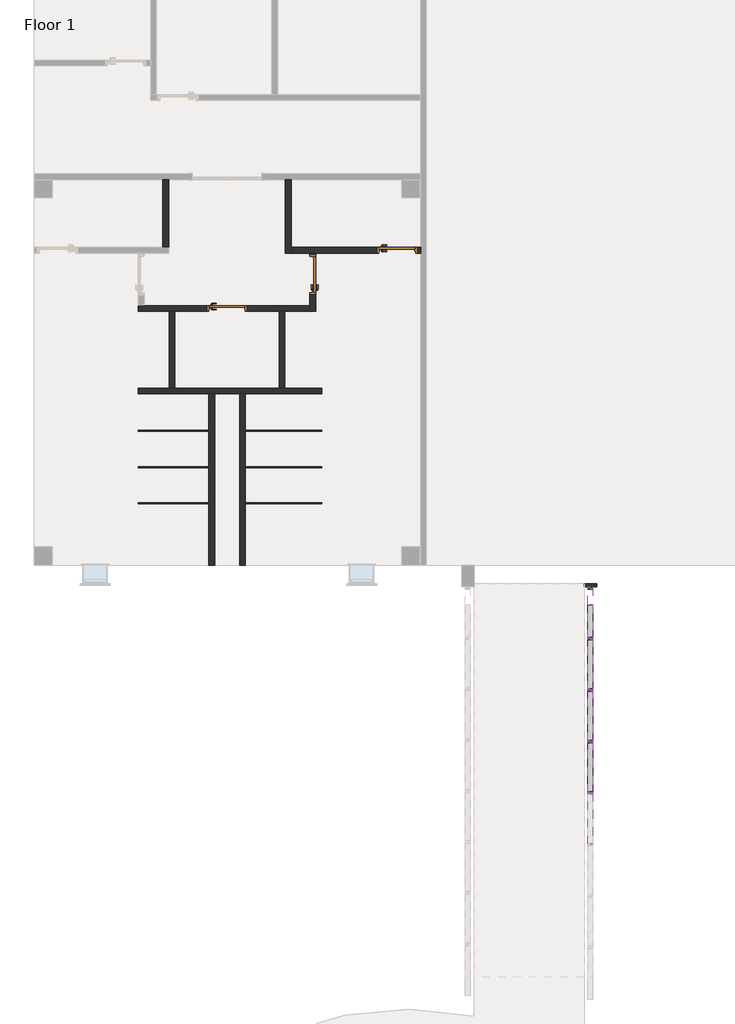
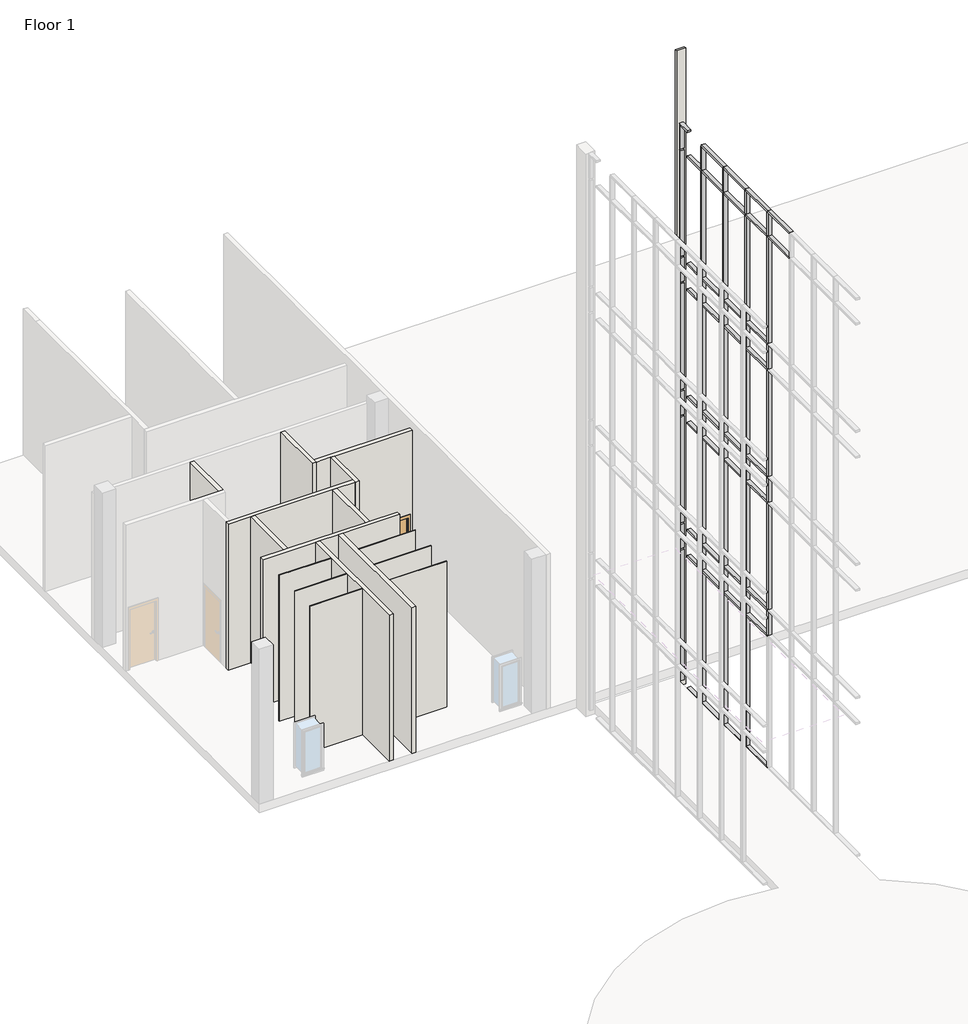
# One storey, part 9 of 11: 77 members, 17 walls, 3 doors.
"""IFC4 building model written with IfcOpenShell, lengths in millimetres."""

from ifc_helpers import new_model, si_unit, origin, origin_with_axes, place, context, project, spatial, polyline, outline, extrude, faceted_brep, transform, mapped, element, save
from components import door_36f17018, door_a46f4f49, member_15823cb3, member_5d07894b, member_3ba9e939, member_ad567e07, member_7db1855a, member_98b79ab6, member_74aba05d, member_5783932f, member_e9605c56, member_5c8c9790, member_bbf28ac8, member_d2e7e466, member_c17f1be2

model = new_model("IFC4")

# Units and contexts
model_context = context("Model", 3, world=origin())
ifc_project = project(units=[si_unit("LENGTHUNIT", "METRE", prefix="MILLI")], contexts=[model_context])

# Site, building, storey
site = spatial("IfcSite", under=ifc_project)
building = spatial("IfcBuilding", under=site)
storey = spatial("IfcBuildingStorey", under=building, Name="Floor 1", Elevation=0.0)

# Doors
placement = place(None, origin())
door_shape = door_36f17018(model_context)
element("IfcDoor", 1, ObjectType="Door-Passage-Single-Flush : 36\" x 84\"", at=placement, inside=storey, context=model_context, shape_type="MappedRepresentation", body=[
    mapped(door_shape, transform((3964.0192024, 45858.911889, 0.0), x_axis=(0.0, 1.0, 0.0), y_axis=(-1.0, 0.0, 0.0), z_axis=(0.0, 0.0, 1.0))),
])
door_2_shape = door_a46f4f49(model_context)
element("IfcDoor", 2, ObjectType="Door-Passage-Single-Flush : 36\" x 84\"", at=placement, inside=storey, context=model_context, shape_type="MappedRepresentation", body=[
    mapped(door_2_shape, transform((6072.2192024, 46455.811889, 0.0), x_axis=(1.0, 0.0, 0.0), y_axis=(0.0, 1.0, 0.0), z_axis=(0.0, 0.0, 1.0))),
])
element("IfcDoor", 3, ObjectType="Door-Passage-Single-Flush : 36\" x 84\"", at=placement, inside=storey, context=model_context, shape_type="MappedRepresentation", body=[
    mapped(door_2_shape, transform((1836.7692024, 45008.011889, 0.0), x_axis=(1.0, 0.0, 0.0), y_axis=(0.0, 1.0, 0.0), z_axis=(0.0, 0.0, 1.0))),
])

# Members
member_shape = member_15823cb3(model_context)
element("IfcMember", 4, ObjectType="Rectangular Mullion1 : 2.5\" x 5\" rectangular", at=placement, inside=storey, context=model_context, shape_type="MappedRepresentation", body=[
    mapped(member_shape, transform((10878.8276119, 38086.511889, 19659.6), x_axis=(0.0, 0.0, 1.0), y_axis=(1.0, 0.0, 0.0), z_axis=(0.0, 1.0, 0.0))),
])
member_2_shape = member_5d07894b(model_context)
element("IfcMember", 5, ObjectType="Rectangular Mullion1 : 2.5\" x 5\" rectangular", at=placement, inside=storey, context=model_context, shape_type="MappedRepresentation", body=[
    mapped(member_2_shape, transform((10878.8276119, 35521.111889, -88.9), x_axis=(0.0, 1.0, 0.0), y_axis=(1.0, 0.0, 0.0), z_axis=(0.0, 0.0, -1.0))),
])
element("IfcMember", 6, ObjectType="Rectangular Mullion1 : 2.5\" x 5\" rectangular", at=placement, inside=storey, context=model_context, shape_type="MappedRepresentation", body=[
    mapped(member_2_shape, transform((10878.8276119, 34238.411889, -88.9), x_axis=(0.0, 1.0, 0.0), y_axis=(1.0, 0.0, 0.0), z_axis=(0.0, 0.0, -1.0))),
])
element("IfcMember", 7, ObjectType="Rectangular Mullion1 : 2.5\" x 5\" rectangular", at=placement, inside=storey, context=model_context, shape_type="MappedRepresentation", body=[
    mapped(member_2_shape, transform((10878.8276119, 36803.811889, -88.9), x_axis=(0.0, 1.0, 0.0), y_axis=(1.0, 0.0, 0.0), z_axis=(0.0, 0.0, -1.0))),
])
member_3_shape = member_3ba9e939(model_context)
element("IfcMember", 8, ObjectType="Rectangular Mullion1 : 2.5\" x 5\" rectangular", at=placement, inside=storey, context=model_context, shape_type="MappedRepresentation", body=[
    mapped(member_3_shape, transform((10878.8276119, 32955.711889, 14966.95), x_axis=(0.0, 1.0, 0.0), y_axis=(1.0, 0.0, 0.0), z_axis=(0.0, 0.0, -1.0))),
])
element("IfcMember", 9, ObjectType="Rectangular Mullion1 : 2.5\" x 5\" rectangular", at=placement, inside=storey, context=model_context, shape_type="MappedRepresentation", body=[
    mapped(member_3_shape, transform((10878.8276119, 32955.711889, 10242.55), x_axis=(0.0, 1.0, 0.0), y_axis=(1.0, 0.0, 0.0), z_axis=(0.0, 0.0, -1.0))),
])
element("IfcMember", 10, ObjectType="Rectangular Mullion1 : 2.5\" x 5\" rectangular", at=placement, inside=storey, context=model_context, shape_type="MappedRepresentation", body=[
    mapped(member_3_shape, transform((10878.8276119, 32955.711889, 5518.15), x_axis=(0.0, 1.0, 0.0), y_axis=(1.0, 0.0, 0.0), z_axis=(0.0, 0.0, -1.0))),
])
element("IfcMember", 11, ObjectType="Rectangular Mullion1 : 2.5\" x 5\" rectangular", at=placement, inside=storey, context=model_context, shape_type="MappedRepresentation", body=[
    mapped(member_3_shape, transform((10878.8276119, 35521.111889, 14966.95), x_axis=(0.0, 1.0, 0.0), y_axis=(1.0, 0.0, 0.0), z_axis=(0.0, 0.0, -1.0))),
])
element("IfcMember", 12, ObjectType="Rectangular Mullion1 : 2.5\" x 5\" rectangular", at=placement, inside=storey, context=model_context, shape_type="MappedRepresentation", body=[
    mapped(member_3_shape, transform((10878.8276119, 35521.111889, 10242.55), x_axis=(0.0, 1.0, 0.0), y_axis=(1.0, 0.0, 0.0), z_axis=(0.0, 0.0, -1.0))),
])
element("IfcMember", 13, ObjectType="Rectangular Mullion1 : 2.5\" x 5\" rectangular", at=placement, inside=storey, context=model_context, shape_type="MappedRepresentation", body=[
    mapped(member_3_shape, transform((10878.8276119, 35521.111889, 5518.15), x_axis=(0.0, 1.0, 0.0), y_axis=(1.0, 0.0, 0.0), z_axis=(0.0, 0.0, -1.0))),
])
element("IfcMember", 14, ObjectType="Rectangular Mullion1 : 2.5\" x 5\" rectangular", at=placement, inside=storey, context=model_context, shape_type="MappedRepresentation", body=[
    mapped(member_3_shape, transform((10878.8276119, 34238.411889, 14966.95), x_axis=(0.0, 1.0, 0.0), y_axis=(1.0, 0.0, 0.0), z_axis=(0.0, 0.0, -1.0))),
])
element("IfcMember", 15, ObjectType="Rectangular Mullion1 : 2.5\" x 5\" rectangular", at=placement, inside=storey, context=model_context, shape_type="MappedRepresentation", body=[
    mapped(member_3_shape, transform((10878.8276119, 34238.411889, 10242.55), x_axis=(0.0, 1.0, 0.0), y_axis=(1.0, 0.0, 0.0), z_axis=(0.0, 0.0, -1.0))),
])
element("IfcMember", 16, ObjectType="Rectangular Mullion1 : 2.5\" x 5\" rectangular", at=placement, inside=storey, context=model_context, shape_type="MappedRepresentation", body=[
    mapped(member_3_shape, transform((10878.8276119, 34238.411889, 5518.15), x_axis=(0.0, 1.0, 0.0), y_axis=(1.0, 0.0, 0.0), z_axis=(0.0, 0.0, -1.0))),
])
element("IfcMember", 17, ObjectType="Rectangular Mullion1 : 2.5\" x 5\" rectangular", at=placement, inside=storey, context=model_context, shape_type="MappedRepresentation", body=[
    mapped(member_3_shape, transform((10878.8276119, 36803.811889, 14966.95), x_axis=(0.0, 1.0, 0.0), y_axis=(1.0, 0.0, 0.0), z_axis=(0.0, 0.0, -1.0))),
])
element("IfcMember", 18, ObjectType="Rectangular Mullion1 : 2.5\" x 5\" rectangular", at=placement, inside=storey, context=model_context, shape_type="MappedRepresentation", body=[
    mapped(member_3_shape, transform((10878.8276119, 36803.811889, 10242.55), x_axis=(0.0, 1.0, 0.0), y_axis=(1.0, 0.0, 0.0), z_axis=(0.0, 0.0, -1.0))),
])
element("IfcMember", 19, ObjectType="Rectangular Mullion1 : 2.5\" x 5\" rectangular", at=placement, inside=storey, context=model_context, shape_type="MappedRepresentation", body=[
    mapped(member_3_shape, transform((10878.8276119, 36803.811889, 5518.15), x_axis=(0.0, 1.0, 0.0), y_axis=(1.0, 0.0, 0.0), z_axis=(0.0, 0.0, -1.0))),
])
member_4_shape = member_ad567e07(model_context)
element("IfcMember", 20, ObjectType="Rectangular Mullion1 : 2.5\" x 5\" rectangular", at=placement, inside=storey, context=model_context, shape_type="MappedRepresentation", body=[
    mapped(member_4_shape, transform((10878.8276119, 32955.711889, 18776.95), x_axis=(0.0, 1.0, 0.0), y_axis=(1.0, 0.0, 0.0), z_axis=(0.0, 0.0, -1.0))),
])
element("IfcMember", 21, ObjectType="Rectangular Mullion1 : 2.5\" x 5\" rectangular", at=placement, inside=storey, context=model_context, shape_type="MappedRepresentation", body=[
    mapped(member_4_shape, transform((10878.8276119, 35521.111889, 18776.95), x_axis=(0.0, 1.0, 0.0), y_axis=(1.0, 0.0, 0.0), z_axis=(0.0, 0.0, -1.0))),
])
element("IfcMember", 22, ObjectType="Rectangular Mullion1 : 2.5\" x 5\" rectangular", at=placement, inside=storey, context=model_context, shape_type="MappedRepresentation", body=[
    mapped(member_4_shape, transform((10878.8276119, 34238.411889, 18776.95), x_axis=(0.0, 1.0, 0.0), y_axis=(1.0, 0.0, 0.0), z_axis=(0.0, 0.0, -1.0))),
])
element("IfcMember", 23, ObjectType="Rectangular Mullion1 : 2.5\" x 5\" rectangular", at=placement, inside=storey, context=model_context, shape_type="MappedRepresentation", body=[
    mapped(member_4_shape, transform((10878.8276119, 36803.811889, 18776.95), x_axis=(0.0, 1.0, 0.0), y_axis=(1.0, 0.0, 0.0), z_axis=(0.0, 0.0, -1.0))),
])
member_5_shape = member_7db1855a(model_context)
element("IfcMember", 24, ObjectType="Rectangular Mullion1 : 2.5\" x 5\" rectangular", at=placement, inside=storey, context=model_context, shape_type="MappedRepresentation", body=[
    mapped(member_5_shape, transform((10878.8276119, 32955.711889, 9328.15), x_axis=(0.0, 1.0, 0.0), y_axis=(1.0, 0.0, 0.0), z_axis=(0.0, 0.0, -1.0))),
])
element("IfcMember", 25, ObjectType="Rectangular Mullion1 : 2.5\" x 5\" rectangular", at=placement, inside=storey, context=model_context, shape_type="MappedRepresentation", body=[
    mapped(member_5_shape, transform((10878.8276119, 32955.711889, 4603.75), x_axis=(0.0, 1.0, 0.0), y_axis=(1.0, 0.0, 0.0), z_axis=(0.0, 0.0, -1.0))),
])
element("IfcMember", 26, ObjectType="Rectangular Mullion1 : 2.5\" x 5\" rectangular", at=placement, inside=storey, context=model_context, shape_type="MappedRepresentation", body=[
    mapped(member_5_shape, transform((10878.8276119, 32955.711889, 14052.55), x_axis=(0.0, 1.0, 0.0), y_axis=(1.0, 0.0, 0.0), z_axis=(0.0, 0.0, -1.0))),
])
element("IfcMember", 27, ObjectType="Rectangular Mullion1 : 2.5\" x 5\" rectangular", at=placement, inside=storey, context=model_context, shape_type="MappedRepresentation", body=[
    mapped(member_5_shape, transform((10878.8276119, 35521.111889, 9328.15), x_axis=(0.0, 1.0, 0.0), y_axis=(1.0, 0.0, 0.0), z_axis=(0.0, 0.0, -1.0))),
])
element("IfcMember", 28, ObjectType="Rectangular Mullion1 : 2.5\" x 5\" rectangular", at=placement, inside=storey, context=model_context, shape_type="MappedRepresentation", body=[
    mapped(member_5_shape, transform((10878.8276119, 35521.111889, 4603.75), x_axis=(0.0, 1.0, 0.0), y_axis=(1.0, 0.0, 0.0), z_axis=(0.0, 0.0, -1.0))),
])
element("IfcMember", 29, ObjectType="Rectangular Mullion1 : 2.5\" x 5\" rectangular", at=placement, inside=storey, context=model_context, shape_type="MappedRepresentation", body=[
    mapped(member_5_shape, transform((10878.8276119, 35521.111889, 14052.55), x_axis=(0.0, 1.0, 0.0), y_axis=(1.0, 0.0, 0.0), z_axis=(0.0, 0.0, -1.0))),
])
element("IfcMember", 30, ObjectType="Rectangular Mullion1 : 2.5\" x 5\" rectangular", at=placement, inside=storey, context=model_context, shape_type="MappedRepresentation", body=[
    mapped(member_5_shape, transform((10878.8276119, 34238.411889, 9328.15), x_axis=(0.0, 1.0, 0.0), y_axis=(1.0, 0.0, 0.0), z_axis=(0.0, 0.0, -1.0))),
])
element("IfcMember", 31, ObjectType="Rectangular Mullion1 : 2.5\" x 5\" rectangular", at=placement, inside=storey, context=model_context, shape_type="MappedRepresentation", body=[
    mapped(member_5_shape, transform((10878.8276119, 34238.411889, 4603.75), x_axis=(0.0, 1.0, 0.0), y_axis=(1.0, 0.0, 0.0), z_axis=(0.0, 0.0, -1.0))),
])
element("IfcMember", 32, ObjectType="Rectangular Mullion1 : 2.5\" x 5\" rectangular", at=placement, inside=storey, context=model_context, shape_type="MappedRepresentation", body=[
    mapped(member_5_shape, transform((10878.8276119, 34238.411889, 14052.55), x_axis=(0.0, 1.0, 0.0), y_axis=(1.0, 0.0, 0.0), z_axis=(0.0, 0.0, -1.0))),
])
element("IfcMember", 33, ObjectType="Rectangular Mullion1 : 2.5\" x 5\" rectangular", at=placement, inside=storey, context=model_context, shape_type="MappedRepresentation", body=[
    mapped(member_5_shape, transform((10878.8276119, 36803.811889, 9328.15), x_axis=(0.0, 1.0, 0.0), y_axis=(1.0, 0.0, 0.0), z_axis=(0.0, 0.0, -1.0))),
])
element("IfcMember", 34, ObjectType="Rectangular Mullion1 : 2.5\" x 5\" rectangular", at=placement, inside=storey, context=model_context, shape_type="MappedRepresentation", body=[
    mapped(member_5_shape, transform((10878.8276119, 36803.811889, 4603.75), x_axis=(0.0, 1.0, 0.0), y_axis=(1.0, 0.0, 0.0), z_axis=(0.0, 0.0, -1.0))),
])
element("IfcMember", 35, ObjectType="Rectangular Mullion1 : 2.5\" x 5\" rectangular", at=placement, inside=storey, context=model_context, shape_type="MappedRepresentation", body=[
    mapped(member_5_shape, transform((10878.8276119, 36803.811889, 14052.55), x_axis=(0.0, 1.0, 0.0), y_axis=(1.0, 0.0, 0.0), z_axis=(0.0, 0.0, -1.0))),
])
member_6_shape = member_98b79ab6(model_context)
element("IfcMember", 36, ObjectType="Rectangular Mullion1 : 2.5\" x 5\" rectangular", at=placement, inside=storey, context=model_context, shape_type="MappedRepresentation", body=[
    mapped(member_6_shape, transform((10878.8276119, 34238.411889, 14935.2), x_axis=(0.0, 0.0, 1.0), y_axis=(1.0, 0.0, 0.0), z_axis=(0.0, 1.0, 0.0))),
])
element("IfcMember", 37, ObjectType="Rectangular Mullion1 : 2.5\" x 5\" rectangular", at=placement, inside=storey, context=model_context, shape_type="MappedRepresentation", body=[
    mapped(member_6_shape, transform((10878.8276119, 36803.811889, 14935.2), x_axis=(0.0, 0.0, 1.0), y_axis=(1.0, 0.0, 0.0), z_axis=(0.0, 1.0, 0.0))),
])
element("IfcMember", 38, ObjectType="Rectangular Mullion1 : 2.5\" x 5\" rectangular", at=placement, inside=storey, context=model_context, shape_type="MappedRepresentation", body=[
    mapped(member_6_shape, transform((10878.8276119, 35521.111889, 14935.2), x_axis=(0.0, 0.0, 1.0), y_axis=(1.0, 0.0, 0.0), z_axis=(0.0, 1.0, 0.0))),
])
element("IfcMember", 39, ObjectType="Rectangular Mullion1 : 2.5\" x 5\" rectangular", at=placement, inside=storey, context=model_context, shape_type="MappedRepresentation", body=[
    mapped(member_6_shape, transform((10878.8276119, 34238.411889, 10210.8), x_axis=(0.0, 0.0, 1.0), y_axis=(1.0, 0.0, 0.0), z_axis=(0.0, 1.0, 0.0))),
])
element("IfcMember", 40, ObjectType="Rectangular Mullion1 : 2.5\" x 5\" rectangular", at=placement, inside=storey, context=model_context, shape_type="MappedRepresentation", body=[
    mapped(member_6_shape, transform((10878.8276119, 36803.811889, 10210.8), x_axis=(0.0, 0.0, 1.0), y_axis=(1.0, 0.0, 0.0), z_axis=(0.0, 1.0, 0.0))),
])
element("IfcMember", 41, ObjectType="Rectangular Mullion1 : 2.5\" x 5\" rectangular", at=placement, inside=storey, context=model_context, shape_type="MappedRepresentation", body=[
    mapped(member_6_shape, transform((10878.8276119, 35521.111889, 10210.8), x_axis=(0.0, 0.0, 1.0), y_axis=(1.0, 0.0, 0.0), z_axis=(0.0, 1.0, 0.0))),
])
element("IfcMember", 42, ObjectType="Rectangular Mullion1 : 2.5\" x 5\" rectangular", at=placement, inside=storey, context=model_context, shape_type="MappedRepresentation", body=[
    mapped(member_6_shape, transform((10878.8276119, 34238.411889, 5486.4), x_axis=(0.0, 0.0, 1.0), y_axis=(1.0, 0.0, 0.0), z_axis=(0.0, 1.0, 0.0))),
])
element("IfcMember", 43, ObjectType="Rectangular Mullion1 : 2.5\" x 5\" rectangular", at=placement, inside=storey, context=model_context, shape_type="MappedRepresentation", body=[
    mapped(member_6_shape, transform((10878.8276119, 36803.811889, 5486.4), x_axis=(0.0, 0.0, 1.0), y_axis=(1.0, 0.0, 0.0), z_axis=(0.0, 1.0, 0.0))),
])
element("IfcMember", 44, ObjectType="Rectangular Mullion1 : 2.5\" x 5\" rectangular", at=placement, inside=storey, context=model_context, shape_type="MappedRepresentation", body=[
    mapped(member_6_shape, transform((10878.8276119, 35521.111889, 5486.4), x_axis=(0.0, 0.0, 1.0), y_axis=(1.0, 0.0, 0.0), z_axis=(0.0, 1.0, 0.0))),
])
element("IfcMember", 45, ObjectType="Rectangular Mullion1 : 2.5\" x 5\" rectangular", at=placement, inside=storey, context=model_context, shape_type="MappedRepresentation", body=[
    mapped(member_6_shape, transform((10878.8276119, 34238.411889, 9296.4), x_axis=(0.0, 0.0, 1.0), y_axis=(1.0, 0.0, 0.0), z_axis=(0.0, 1.0, 0.0))),
])
element("IfcMember", 46, ObjectType="Rectangular Mullion1 : 2.5\" x 5\" rectangular", at=placement, inside=storey, context=model_context, shape_type="MappedRepresentation", body=[
    mapped(member_6_shape, transform((10878.8276119, 36803.811889, 9296.4), x_axis=(0.0, 0.0, 1.0), y_axis=(1.0, 0.0, 0.0), z_axis=(0.0, 1.0, 0.0))),
])
element("IfcMember", 47, ObjectType="Rectangular Mullion1 : 2.5\" x 5\" rectangular", at=placement, inside=storey, context=model_context, shape_type="MappedRepresentation", body=[
    mapped(member_6_shape, transform((10878.8276119, 35521.111889, 9296.4), x_axis=(0.0, 0.0, 1.0), y_axis=(1.0, 0.0, 0.0), z_axis=(0.0, 1.0, 0.0))),
])
element("IfcMember", 48, ObjectType="Rectangular Mullion1 : 2.5\" x 5\" rectangular", at=placement, inside=storey, context=model_context, shape_type="MappedRepresentation", body=[
    mapped(member_6_shape, transform((10878.8276119, 34238.411889, 4572.0), x_axis=(0.0, 0.0, 1.0), y_axis=(1.0, 0.0, 0.0), z_axis=(0.0, 1.0, 0.0))),
])
element("IfcMember", 49, ObjectType="Rectangular Mullion1 : 2.5\" x 5\" rectangular", at=placement, inside=storey, context=model_context, shape_type="MappedRepresentation", body=[
    mapped(member_6_shape, transform((10878.8276119, 36803.811889, 4572.0), x_axis=(0.0, 0.0, 1.0), y_axis=(1.0, 0.0, 0.0), z_axis=(0.0, 1.0, 0.0))),
])
element("IfcMember", 50, ObjectType="Rectangular Mullion1 : 2.5\" x 5\" rectangular", at=placement, inside=storey, context=model_context, shape_type="MappedRepresentation", body=[
    mapped(member_6_shape, transform((10878.8276119, 35521.111889, 4572.0), x_axis=(0.0, 0.0, 1.0), y_axis=(1.0, 0.0, 0.0), z_axis=(0.0, 1.0, 0.0))),
])
element("IfcMember", 51, ObjectType="Rectangular Mullion1 : 2.5\" x 5\" rectangular", at=placement, inside=storey, context=model_context, shape_type="MappedRepresentation", body=[
    mapped(member_6_shape, transform((10878.8276119, 34238.411889, 14020.8), x_axis=(0.0, 0.0, 1.0), y_axis=(1.0, 0.0, 0.0), z_axis=(0.0, 1.0, 0.0))),
])
element("IfcMember", 52, ObjectType="Rectangular Mullion1 : 2.5\" x 5\" rectangular", at=placement, inside=storey, context=model_context, shape_type="MappedRepresentation", body=[
    mapped(member_6_shape, transform((10878.8276119, 36803.811889, 14020.8), x_axis=(0.0, 0.0, 1.0), y_axis=(1.0, 0.0, 0.0), z_axis=(0.0, 1.0, 0.0))),
])
element("IfcMember", 53, ObjectType="Rectangular Mullion1 : 2.5\" x 5\" rectangular", at=placement, inside=storey, context=model_context, shape_type="MappedRepresentation", body=[
    mapped(member_6_shape, transform((10878.8276119, 35521.111889, 14020.8), x_axis=(0.0, 0.0, 1.0), y_axis=(1.0, 0.0, 0.0), z_axis=(0.0, 1.0, 0.0))),
])
element("IfcMember", 54, ObjectType="Rectangular Mullion1 : 2.5\" x 5\" rectangular", at=placement, inside=storey, context=model_context, shape_type="MappedRepresentation", body=[
    mapped(member_6_shape, transform((10878.8276119, 34238.411889, 18745.2), x_axis=(0.0, 0.0, 1.0), y_axis=(1.0, 0.0, 0.0), z_axis=(0.0, 1.0, 0.0))),
])
element("IfcMember", 55, ObjectType="Rectangular Mullion1 : 2.5\" x 5\" rectangular", at=placement, inside=storey, context=model_context, shape_type="MappedRepresentation", body=[
    mapped(member_6_shape, transform((10878.8276119, 36803.811889, 18745.2), x_axis=(0.0, 0.0, 1.0), y_axis=(1.0, 0.0, 0.0), z_axis=(0.0, 1.0, 0.0))),
])
element("IfcMember", 56, ObjectType="Rectangular Mullion1 : 2.5\" x 5\" rectangular", at=placement, inside=storey, context=model_context, shape_type="MappedRepresentation", body=[
    mapped(member_6_shape, transform((10878.8276119, 32955.711889, 18745.2), x_axis=(0.0, 0.0, 1.0), y_axis=(1.0, 0.0, 0.0), z_axis=(0.0, 1.0, 0.0))),
])
element("IfcMember", 57, ObjectType="Rectangular Mullion1 : 2.5\" x 5\" rectangular", at=placement, inside=storey, context=model_context, shape_type="MappedRepresentation", body=[
    mapped(member_6_shape, transform((10878.8276119, 35521.111889, 18745.2), x_axis=(0.0, 0.0, 1.0), y_axis=(1.0, 0.0, 0.0), z_axis=(0.0, 1.0, 0.0))),
])
member_7_shape = member_74aba05d(model_context)
element("IfcMember", 58, ObjectType="Rectangular Mullion1 : 2.5\" x 5\" rectangular", at=placement, inside=storey, context=model_context, shape_type="MappedRepresentation", body=[
    mapped(member_7_shape, transform((10878.8276119, 37629.311889, 14935.2), x_axis=(0.0, 0.0, 1.0), y_axis=(1.0, 0.0, 0.0), z_axis=(0.0, 1.0, 0.0))),
])
element("IfcMember", 59, ObjectType="Rectangular Mullion1 : 2.5\" x 5\" rectangular", at=placement, inside=storey, context=model_context, shape_type="MappedRepresentation", body=[
    mapped(member_7_shape, transform((10878.8276119, 37629.311889, 10210.8), x_axis=(0.0, 0.0, 1.0), y_axis=(1.0, 0.0, 0.0), z_axis=(0.0, 1.0, 0.0))),
])
element("IfcMember", 60, ObjectType="Rectangular Mullion1 : 2.5\" x 5\" rectangular", at=placement, inside=storey, context=model_context, shape_type="MappedRepresentation", body=[
    mapped(member_7_shape, transform((10878.8276119, 37629.311889, 5486.4), x_axis=(0.0, 0.0, 1.0), y_axis=(1.0, 0.0, 0.0), z_axis=(0.0, 1.0, 0.0))),
])
element("IfcMember", 61, ObjectType="Rectangular Mullion1 : 2.5\" x 5\" rectangular", at=placement, inside=storey, context=model_context, shape_type="MappedRepresentation", body=[
    mapped(member_7_shape, transform((10878.8276119, 37629.311889, 9296.4), x_axis=(0.0, 0.0, 1.0), y_axis=(1.0, 0.0, 0.0), z_axis=(0.0, 1.0, 0.0))),
])
element("IfcMember", 62, ObjectType="Rectangular Mullion1 : 2.5\" x 5\" rectangular", at=placement, inside=storey, context=model_context, shape_type="MappedRepresentation", body=[
    mapped(member_7_shape, transform((10878.8276119, 37629.311889, 4572.0), x_axis=(0.0, 0.0, 1.0), y_axis=(1.0, 0.0, 0.0), z_axis=(0.0, 1.0, 0.0))),
])
element("IfcMember", 63, ObjectType="Rectangular Mullion1 : 2.5\" x 5\" rectangular", at=placement, inside=storey, context=model_context, shape_type="MappedRepresentation", body=[
    mapped(member_7_shape, transform((10878.8276119, 37629.311889, 14020.8), x_axis=(0.0, 0.0, 1.0), y_axis=(1.0, 0.0, 0.0), z_axis=(0.0, 1.0, 0.0))),
])
element("IfcMember", 64, ObjectType="Rectangular Mullion1 : 2.5\" x 5\" rectangular", at=placement, inside=storey, context=model_context, shape_type="MappedRepresentation", body=[
    mapped(member_7_shape, transform((10878.8276119, 37629.311889, 18745.2), x_axis=(0.0, 0.0, 1.0), y_axis=(1.0, 0.0, 0.0), z_axis=(0.0, 1.0, 0.0))),
])
member_8_shape = member_5783932f(model_context)
element("IfcMember", 65, ObjectType="Rectangular Mullion1 : 2.5\" x 5\" rectangular", at=placement, inside=storey, context=model_context, shape_type="MappedRepresentation", body=[
    mapped(member_8_shape, transform((10878.8276119, 32955.711889, -152.4), x_axis=(0.0, 0.0, -1.0), y_axis=(1.0, 0.0, 0.0), z_axis=(0.0, -1.0, 0.0))),
])
element("IfcMember", 66, ObjectType="Rectangular Mullion1 : 2.5\" x 5\" rectangular", at=placement, inside=storey, context=model_context, shape_type="MappedRepresentation", body=[
    mapped(member_8_shape, transform((10878.8276119, 35521.111889, -152.4), x_axis=(0.0, 0.0, -1.0), y_axis=(1.0, 0.0, 0.0), z_axis=(0.0, -1.0, 0.0))),
])
element("IfcMember", 67, ObjectType="Rectangular Mullion1 : 2.5\" x 5\" rectangular", at=placement, inside=storey, context=model_context, shape_type="MappedRepresentation", body=[
    mapped(member_8_shape, transform((10878.8276119, 34238.411889, -152.4), x_axis=(0.0, 0.0, -1.0), y_axis=(1.0, 0.0, 0.0), z_axis=(0.0, -1.0, 0.0))),
])
member_9_shape = member_e9605c56(model_context)
element("IfcMember", 68, ObjectType="Rectangular Mullion1 : 2.5\" x 5\" rectangular", at=placement, inside=storey, context=model_context, shape_type="MappedRepresentation", body=[
    mapped(member_9_shape, transform((10878.8276119, 36803.811889, -152.4), x_axis=(0.0, 0.0, -1.0), y_axis=(1.0, 0.0, 0.0), z_axis=(0.0, -1.0, 0.0))),
])
element("IfcMember", 69, ObjectType="Rectangular Mullion1 : 2.5\" x 5\" rectangular", at=placement, inside=storey, context=model_context, shape_type="MappedRepresentation", body=[
    mapped(member_8_shape, transform((10878.8276119, 32955.711889, 19659.6), x_axis=(0.0, 0.0, 1.0), y_axis=(1.0, 0.0, 0.0), z_axis=(0.0, 1.0, 0.0))),
])
element("IfcMember", 70, ObjectType="Rectangular Mullion1 : 2.5\" x 5\" rectangular", at=placement, inside=storey, context=model_context, shape_type="MappedRepresentation", body=[
    mapped(member_8_shape, transform((10878.8276119, 35521.111889, 19659.6), x_axis=(0.0, 0.0, 1.0), y_axis=(1.0, 0.0, 0.0), z_axis=(0.0, 1.0, 0.0))),
])
element("IfcMember", 71, ObjectType="Rectangular Mullion1 : 2.5\" x 5\" rectangular", at=placement, inside=storey, context=model_context, shape_type="MappedRepresentation", body=[
    mapped(member_8_shape, transform((10878.8276119, 34238.411889, 19659.6), x_axis=(0.0, 0.0, 1.0), y_axis=(1.0, 0.0, 0.0), z_axis=(0.0, 1.0, 0.0))),
])
element("IfcMember", 72, ObjectType="Rectangular Mullion1 : 2.5\" x 5\" rectangular", at=placement, inside=storey, context=model_context, shape_type="MappedRepresentation", body=[
    mapped(member_8_shape, transform((10878.8276119, 36803.811889, 19659.6), x_axis=(0.0, 0.0, 1.0), y_axis=(1.0, 0.0, 0.0), z_axis=(0.0, 1.0, 0.0))),
])
member_10_shape = member_5c8c9790(model_context)
element("IfcMember", 73, ObjectType="Rectangular Mullion1 : 2.5\" x 5\" rectangular", at=placement, inside=storey, context=model_context, shape_type="MappedRepresentation", body=[
    mapped(member_10_shape, transform((10878.8276119, 38086.511889, -88.9), x_axis=(0.0, 1.0, 0.0), y_axis=(1.0, 0.0, 0.0), z_axis=(0.0, 0.0, -1.0))),
])
member_11_shape = member_bbf28ac8(model_context)
element("IfcMember", 74, ObjectType="Rectangular Mullion1 : 2.5\" x 5\" rectangular", at=placement, inside=storey, context=model_context, shape_type="MappedRepresentation", body=[
    mapped(member_11_shape, transform((10878.8276119, 38086.511889, 14966.95), x_axis=(0.0, 1.0, 0.0), y_axis=(1.0, 0.0, 0.0), z_axis=(0.0, 0.0, -1.0))),
])
element("IfcMember", 75, ObjectType="Rectangular Mullion1 : 2.5\" x 5\" rectangular", at=placement, inside=storey, context=model_context, shape_type="MappedRepresentation", body=[
    mapped(member_11_shape, transform((10878.8276119, 38086.511889, 10242.55), x_axis=(0.0, 1.0, 0.0), y_axis=(1.0, 0.0, 0.0), z_axis=(0.0, 0.0, -1.0))),
])
element("IfcMember", 76, ObjectType="Rectangular Mullion1 : 2.5\" x 5\" rectangular", at=placement, inside=storey, context=model_context, shape_type="MappedRepresentation", body=[
    mapped(member_11_shape, transform((10878.8276119, 38086.511889, 5518.15), x_axis=(0.0, 1.0, 0.0), y_axis=(1.0, 0.0, 0.0), z_axis=(0.0, 0.0, -1.0))),
])
member_12_shape = member_d2e7e466(model_context)
element("IfcMember", 77, ObjectType="Rectangular Mullion1 : 2.5\" x 5\" rectangular", at=placement, inside=storey, context=model_context, shape_type="MappedRepresentation", body=[
    mapped(member_12_shape, transform((10878.8276119, 38086.511889, 9328.15), x_axis=(0.0, 1.0, 0.0), y_axis=(1.0, 0.0, 0.0), z_axis=(0.0, 0.0, -1.0))),
])
element("IfcMember", 78, ObjectType="Rectangular Mullion1 : 2.5\" x 5\" rectangular", at=placement, inside=storey, context=model_context, shape_type="MappedRepresentation", body=[
    mapped(member_12_shape, transform((10878.8276119, 38086.511889, 4603.75), x_axis=(0.0, 1.0, 0.0), y_axis=(1.0, 0.0, 0.0), z_axis=(0.0, 0.0, -1.0))),
])
element("IfcMember", 79, ObjectType="Rectangular Mullion1 : 2.5\" x 5\" rectangular", at=placement, inside=storey, context=model_context, shape_type="MappedRepresentation", body=[
    mapped(member_12_shape, transform((10878.8276119, 38086.511889, 14052.55), x_axis=(0.0, 1.0, 0.0), y_axis=(1.0, 0.0, 0.0), z_axis=(0.0, 0.0, -1.0))),
])
member_13_shape = member_c17f1be2(model_context)
element("IfcMember", 80, ObjectType="Rectangular Mullion1 : 2.5\" x 5\" rectangular", at=placement, inside=storey, context=model_context, shape_type="MappedRepresentation", body=[
    mapped(member_13_shape, transform((10878.8276119, 38086.511889, 18776.95), x_axis=(0.0, 1.0, 0.0), y_axis=(1.0, 0.0, 0.0), z_axis=(0.0, 0.0, -1.0))),
])

# Walls
element("IfcWall", 81, ObjectType="Interior - 5 1/2\" Partition (1-hr)", at=placement, inside=storey, context=model_context, shape_type="Brep", body=[
    faceted_brep([(3290.9192024, 48221.111889, 0.0), (3290.9192024, 46392.311889, 0.0), (3290.9192024, 46392.311889, 5181.6), (3290.9192024, 48221.111889, 5181.6), (3430.6192024, 48221.111889, 0.0), (3430.6192024, 48221.111889, 5181.6), (3430.6192024, 46532.011889, 5181.6), (3430.6192024, 46392.311889, 5181.6), (3430.6192024, 46392.311889, 0.0), (3430.6192024, 46532.011889, 0.0)], [[[0, 1, 2, 3]], [[4, 5, 6, 7, 8, 9]], [[1, 0, 4, 9, 8]], [[2, 1, 8, 7]], [[0, 3, 5, 4]], [[3, 2, 7, 6, 5]]]),
])
element("IfcWall", 82, ObjectType="Interior - 5 1/2\" Partition (1-hr)", at=placement, inside=storey, context=model_context, shape_type="Brep", body=[
    faceted_brep([(6580.2192024, 46392.311889, 2235.2), (6580.2192024, 46392.311889, 0.0), (6656.4192024, 46392.311889, 0.0), (6656.4192024, 46392.311889, 5181.6), (4040.2192024, 46392.311889, 5181.6), (3900.5192024, 46392.311889, 5181.6), (3430.6192024, 46392.311889, 5181.6), (3430.6192024, 46392.311889, 0.0), (3900.5192024, 46392.311889, 0.0), (4040.2192024, 46392.311889, 0.0), (5564.2192024, 46392.311889, 0.0), (5564.2192024, 46392.311889, 2235.2), (6656.4192024, 46532.011889, 0.0), (6580.2192024, 46532.011889, 0.0), (6580.2192024, 46532.011889, 2235.2), (5564.2192024, 46532.011889, 2235.2), (5564.2192024, 46532.011889, 0.0), (3430.6192024, 46532.011889, 0.0), (3430.6192024, 46532.011889, 5181.6), (6656.4192024, 46532.011889, 5181.6)], [[[0, 1, 2, 3, 4, 5, 6, 7, 8, 9, 10, 11]], [[12, 13, 14, 15, 16, 17, 18, 19]], [[2, 1, 13, 12]], [[10, 9, 8, 7, 17, 16]], [[7, 6, 18, 17]], [[6, 5, 4, 3, 19, 18]], [[3, 2, 12, 19]], [[14, 13, 1, 0]], [[15, 14, 0, 11]], [[16, 15, 11, 10]]]),
])
element("IfcWall", 83, ObjectType="Interior - 5 1/2\" Partition (1-hr)", at=placement, inside=storey, context=model_context, shape_type="SweptSolid", body=[
    extrude(outline(polyline([(382.6192024, 48221.111889), (382.6192024, 46532.011889), (242.9192024, 46532.011889), (242.9192024, 48221.111889), (382.6192024, 48221.111889)])), origin_with_axes(), (0.0, 0.0, 1.0), 5181.6),
])
element("IfcWall", 84, ObjectType="Interior - 5 1/2\" Partition (1-hr)", at=placement, inside=storey, context=model_context, shape_type="Brep", body=[
    faceted_brep([(3900.5192024, 46392.311889, 0.0), (3900.5192024, 46366.911889, 0.0), (3900.5192024, 46366.911889, 2235.2), (3900.5192024, 45350.911889, 2235.2), (3900.5192024, 45350.911889, 0.0), (3900.5192024, 45084.211889, 0.0), (3900.5192024, 44944.511889, 0.0), (3900.5192024, 44944.511889, 5181.6), (3900.5192024, 45084.211889, 5181.6), (3900.5192024, 46392.311889, 5181.6), (4040.2192024, 46366.911889, 2235.2), (4040.2192024, 46366.911889, 0.0), (4040.2192024, 46392.311889, 0.0), (4040.2192024, 46392.311889, 5181.6), (4040.2192024, 44944.511889, 5181.6), (4040.2192024, 44944.511889, 0.0), (4040.2192024, 45350.911889, 0.0), (4040.2192024, 45350.911889, 2235.2)], [[[0, 1, 2, 3, 4, 5, 6, 7, 8, 9]], [[10, 11, 12, 13, 14, 15, 16, 17]], [[12, 11, 1, 0]], [[16, 15, 6, 5, 4]], [[0, 9, 13, 12]], [[7, 6, 15, 14]], [[9, 8, 7, 14, 13]], [[2, 1, 11, 10]], [[3, 2, 10, 17]], [[4, 3, 17, 16]]]),
])
element("IfcWall", 85, ObjectType="Interior - 5 1/2\" Partition (1-hr)", at=placement, inside=storey, context=model_context, shape_type="Brep", body=[
    faceted_brep([(3900.5192024, 45084.211889, 0.0), (2344.7692024, 45084.211889, 0.0), (2344.7692024, 45084.211889, 2235.2), (1328.7692024, 45084.211889, 2235.2), (1328.7692024, 45084.211889, 0.0), (-226.9807976, 45084.211889, 0.0), (-366.6807976, 45084.211889, 0.0), (-366.6807976, 45084.211889, 5181.6), (-226.9807976, 45084.211889, 5181.6), (3900.5192024, 45084.211889, 5181.6), (2344.7692024, 44944.511889, 2235.2), (2344.7692024, 44944.511889, 0.0), (3138.5192024, 44944.511889, 0.0), (3278.2192024, 44944.511889, 0.0), (3900.5192024, 44944.511889, 0.0), (3900.5192024, 44944.511889, 5181.6), (3278.2192024, 44944.511889, 5181.6), (3138.5192024, 44944.511889, 5181.6), (535.0192024, 44944.511889, 5181.6), (395.3192024, 44944.511889, 5181.6), (-366.6807976, 44944.511889, 5181.6), (-366.6807976, 44944.511889, 0.0), (395.3192024, 44944.511889, 0.0), (535.0192024, 44944.511889, 0.0), (1328.7692024, 44944.511889, 0.0), (1328.7692024, 44944.511889, 2235.2)], [[[0, 1, 2, 3, 4, 5, 6, 7, 8, 9]], [[10, 11, 12, 13, 14, 15, 16, 17, 18, 19, 20, 21, 22, 23, 24, 25]], [[14, 13, 12, 11, 1, 0]], [[24, 23, 22, 21, 6, 5, 4]], [[0, 9, 15, 14]], [[7, 6, 21, 20]], [[9, 8, 7, 20, 19, 18, 17, 16, 15]], [[2, 1, 11, 10]], [[3, 2, 10, 25]], [[4, 3, 25, 24]]]),
])
element("IfcWall", 86, ObjectType="Interior - 5 1/2\" Partition (1-hr)", at=placement, inside=storey, context=model_context, shape_type="Brep", body=[
    faceted_brep([(2147.9192024, 42885.524389, 0.0), (2147.9192024, 38618.324389, 0.0), (2147.9192024, 38618.324389, 5181.6), (2147.9192024, 42885.524389, 5181.6), (2287.6192024, 42885.524389, 0.0), (2287.6192024, 42885.524389, 5181.6), (2287.6192024, 41983.824389, 5181.6), (2287.6192024, 41958.424389, 5181.6), (2287.6192024, 41069.424389, 5181.6), (2287.6192024, 41044.024389, 5181.6), (2287.6192024, 40180.424389, 5181.6), (2287.6192024, 40155.024389, 5181.6), (2287.6192024, 38618.324389, 5181.6), (2287.6192024, 38618.324389, 0.0), (2287.6192024, 40155.024389, 0.0), (2287.6192024, 40180.424389, 0.0), (2287.6192024, 41044.024389, 0.0), (2287.6192024, 41069.424389, 0.0), (2287.6192024, 41958.424389, 0.0), (2287.6192024, 41983.824389, 0.0)], [[[0, 1, 2, 3]], [[4, 5, 6, 7, 8, 9, 10, 11, 12, 13, 14, 15, 16, 17, 18, 19]], [[1, 0, 4, 19, 18, 17, 16, 15, 14, 13]], [[2, 1, 13, 12]], [[0, 3, 5, 4]], [[3, 2, 12, 11, 10, 9, 8, 7, 6, 5]]]),
])
element("IfcWall", 87, ObjectType="Interior - 5 1/2\" Partition (1-hr)", at=placement, inside=storey, context=model_context, shape_type="Brep", body=[
    faceted_brep([(-373.0307976, 42885.524389, 0.0), (1385.9192024, 42885.524389, 0.0), (1525.6192024, 42885.524389, 0.0), (2147.9192024, 42885.524389, 0.0), (2287.6192024, 42885.524389, 0.0), (4198.9692024, 42885.524389, 0.0), (4198.9692024, 42885.524389, 5181.6), (2287.6192024, 42885.524389, 5181.6), (2147.9192024, 42885.524389, 5181.6), (1525.6192024, 42885.524389, 5181.6), (1385.9192024, 42885.524389, 5181.6), (-373.0307976, 42885.524389, 5181.6), (-373.0307976, 43025.224389, 0.0), (-373.0307976, 43025.224389, 5181.6), (395.3192024, 43025.224389, 5181.6), (535.0192024, 43025.224389, 5181.6), (3138.5192024, 43025.224389, 5181.6), (3278.2192024, 43025.224389, 5181.6), (4198.9692024, 43025.224389, 5181.6), (4198.9692024, 43025.224389, 0.0), (3278.2192024, 43025.224389, 0.0), (3138.5192024, 43025.224389, 0.0), (535.0192024, 43025.224389, 0.0), (395.3192024, 43025.224389, 0.0)], [[[0, 1, 2, 3, 4, 5, 6, 7, 8, 9, 10, 11]], [[12, 13, 14, 15, 16, 17, 18, 19, 20, 21, 22, 23]], [[5, 4, 3, 2, 1, 0, 12, 23, 22, 21, 20, 19]], [[6, 5, 19, 18]], [[0, 11, 13, 12]], [[11, 10, 9, 8, 7, 6, 18, 17, 16, 15, 14, 13]]]),
])
element("IfcWall", 88, ObjectType="Interior - 5 1/2\" Partition (1-hr)", at=placement, inside=storey, context=model_context, shape_type="SweptSolid", body=[
    extrude(outline(polyline([(3278.2192024, 44944.511889), (3278.2192024, 43025.224389), (3138.5192024, 43025.224389), (3138.5192024, 44944.511889), (3278.2192024, 44944.511889)])), origin_with_axes(), (0.0, 0.0, 1.0), 5181.6),
])
element("IfcWall", 89, ObjectType="Interior - 5 1/2\" Partition (1-hr)", at=placement, inside=storey, context=model_context, shape_type="Brep", body=[
    faceted_brep([(1385.9192024, 42885.524389, 0.0), (1385.9192024, 41983.824389, 0.0), (1385.9192024, 41958.424389, 0.0), (1385.9192024, 41069.424389, 0.0), (1385.9192024, 41044.024389, 0.0), (1385.9192024, 40180.424389, 0.0), (1385.9192024, 40155.024389, 0.0), (1385.9192024, 38618.324389, 0.0), (1385.9192024, 38618.324389, 5181.6), (1385.9192024, 40155.024389, 5181.6), (1385.9192024, 40180.424389, 5181.6), (1385.9192024, 41044.024389, 5181.6), (1385.9192024, 41069.424389, 5181.6), (1385.9192024, 41958.424389, 5181.6), (1385.9192024, 41983.824389, 5181.6), (1385.9192024, 42885.524389, 5181.6), (1525.6192024, 42885.524389, 0.0), (1525.6192024, 42885.524389, 5181.6), (1525.6192024, 38618.324389, 5181.6), (1525.6192024, 38618.324389, 0.0)], [[[0, 1, 2, 3, 4, 5, 6, 7, 8, 9, 10, 11, 12, 13, 14, 15]], [[16, 17, 18, 19]], [[7, 6, 5, 4, 3, 2, 1, 0, 16, 19]], [[8, 7, 19, 18]], [[0, 15, 17, 16]], [[15, 14, 13, 12, 11, 10, 9, 8, 18, 17]]]),
])
element("IfcWall", 90, ObjectType="Interior - 5 1/2\" Partition (1-hr)", at=placement, inside=storey, context=model_context, shape_type="SweptSolid", body=[
    extrude(outline(polyline([(395.3192024, 43025.224389), (395.3192024, 44944.511889), (535.0192024, 44944.511889), (535.0192024, 43025.224389), (395.3192024, 43025.224389)])), origin_with_axes(), (0.0, 0.0, 1.0), 5181.6),
])
element("IfcWall", 91, ObjectType="a_Mtl panel on Mtl stud", at=placement, inside=storey, context=model_context, shape_type="Brep", body=[
    faceted_brep([(11034.4026119, 38086.511889, -304.8), (11034.4026119, 38164.299389, -304.8), (11034.4026119, 38164.299389, 19659.6), (11034.4026119, 38164.299389, 22250.4), (11034.4026119, 38086.511889, 22250.4), (11034.4026119, 38086.511889, 19659.6), (10723.2526119, 38086.511889, -304.8), (10723.2526119, 38086.511889, 19659.6), (10723.2526119, 38086.511889, 22250.4), (10723.2526119, 38164.299389, 22250.4), (10723.2526119, 38164.299389, 19659.6), (10723.2526119, 38164.299389, -304.8)], [[[0, 1, 2, 3, 4, 5]], [[6, 7, 8, 9, 10, 11]], [[1, 0, 6, 11]], [[4, 3, 9, 8]], [[0, 5, 4, 8, 7, 6]], [[3, 2, 1, 11, 10, 9]]]),
])
element("IfcWall", 92, ObjectType="toilet partition - 1\"", at=placement, inside=storey, context=model_context, shape_type="SweptSolid", body=[
    extrude(outline(polyline([(4198.9692024, 40155.024389), (2287.6192024, 40155.024389), (2287.6192024, 40180.424389), (4198.9692024, 40180.424389), (4198.9692024, 40155.024389)])), origin_with_axes(), (0.0, 0.0, 1.0), 5181.6),
])
element("IfcWall", 93, ObjectType="toilet partition - 1\"", at=placement, inside=storey, context=model_context, shape_type="SweptSolid", body=[
    extrude(outline(polyline([(4198.9692024, 41044.024389), (2287.6192024, 41044.024389), (2287.6192024, 41069.424389), (4198.9692024, 41069.424389), (4198.9692024, 41044.024389)])), origin_with_axes(), (0.0, 0.0, 1.0), 5181.6),
])
element("IfcWall", 94, ObjectType="toilet partition - 1\"", at=placement, inside=storey, context=model_context, shape_type="SweptSolid", body=[
    extrude(outline(polyline([(4198.9692024, 41958.424389), (2287.6192024, 41958.424389), (2287.6192024, 41983.824389), (4198.9692024, 41983.824389), (4198.9692024, 41958.424389)])), origin_with_axes(), (0.0, 0.0, 1.0), 5181.6),
])
element("IfcWall", 95, ObjectType="toilet partition - 1\"", at=placement, inside=storey, context=model_context, shape_type="SweptSolid", body=[
    extrude(outline(polyline([(-373.0307976, 41983.824389), (1385.9192024, 41983.824389), (1385.9192024, 41958.424389), (-373.0307976, 41958.424389), (-373.0307976, 41983.824389)])), origin_with_axes(), (0.0, 0.0, 1.0), 5181.6),
])
element("IfcWall", 96, ObjectType="toilet partition - 1\"", at=placement, inside=storey, context=model_context, shape_type="SweptSolid", body=[
    extrude(outline(polyline([(-373.0307976, 41069.424389), (1385.9192024, 41069.424389), (1385.9192024, 41044.024389), (-373.0307976, 41044.024389), (-373.0307976, 41069.424389)])), origin_with_axes(), (0.0, 0.0, 1.0), 5181.6),
])
element("IfcWall", 97, ObjectType="toilet partition - 1\"", at=placement, inside=storey, context=model_context, shape_type="SweptSolid", body=[
    extrude(outline(polyline([(-373.0307976, 40180.424389), (1385.9192024, 40180.424389), (1385.9192024, 40155.024389), (-373.0307976, 40155.024389), (-373.0307976, 40180.424389)])), origin_with_axes(), (0.0, 0.0, 1.0), 5181.6),
])

save(model, "model.ifc")
